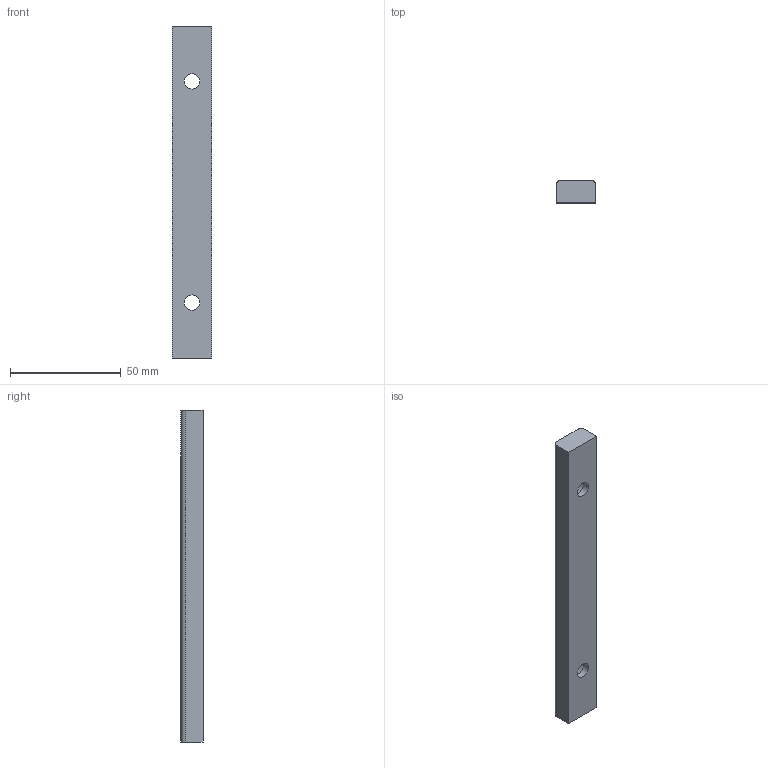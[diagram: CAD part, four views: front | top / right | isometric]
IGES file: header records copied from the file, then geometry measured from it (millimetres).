
Start section: Data from Parasolid IGES Translator 20.0.26, Copyright(c) 2006 Siemens P LM Software. All Rights Reserved.
Global section: file name: G220-01-018-150.igs; native system: By Siemens PLM Incorporated; preprocessor: XPlus GENERIC/IGES 20.0.26; author: Noname; organization: Noname; date: 20190705.150428; units: millimetre
Bounding box: 18 x 10 x 150 mm (x, y, z)
Surface area: 8960.9 mm2 (no closed solid volume)
Topology: 0 solids, 0 shells, 14 faces, 60 edges, 57 vertices
Faces by surface type: extrusion 8, revolution 6
